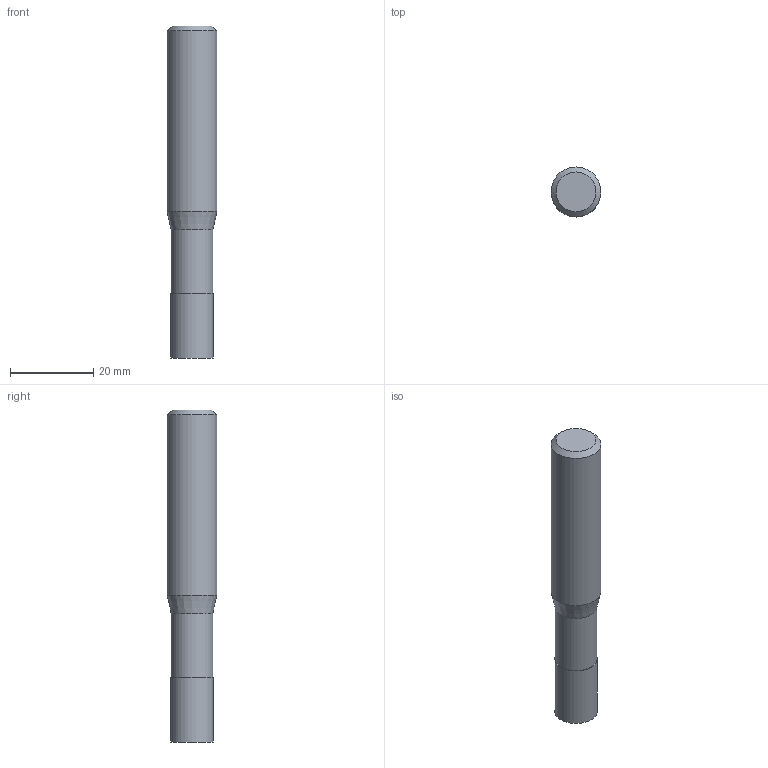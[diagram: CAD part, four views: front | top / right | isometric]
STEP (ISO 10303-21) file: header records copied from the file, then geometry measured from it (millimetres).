
FILE_DESCRIPTION((''),'2;1');
FILE_NAME('C:\Users\nsx150\AppData\Local\Temp\Mastercam 2021\EUJSUNXURU\TEMP.step','2021-04-22T10:30:02',(''),(''),'STEP Write','Mastercam 2021 ... CNC Software, Inc.','');
FILE_SCHEMA(('AUTOMOTIVE_DESIGN'));
Length unit declared in the file: millimetre
Products named in the file (1): None
Bounding box: 12 x 12 x 80 mm (x, y, z)
Volume: 7977.3 mm3; surface area: 3162.8 mm2
Topology: 2 solids, 2 shells, 9 faces, 12 edges, 7 vertices
Faces by surface type: plane 4, cylinder 3, cone 2
Full cylindrical faces by diameter (mm): 10.1 x1, 10.3 x1, 12 x1
Entity records: 211 total; most frequent: DIRECTION 36, CARTESIAN_POINT 25, AXIS2_PLACEMENT_3D 18, ORIENTED_EDGE 14, EDGE_LOOP 14, STYLED_ITEM 12, ADVANCED_FACE 9, FACE_BOUND 8
